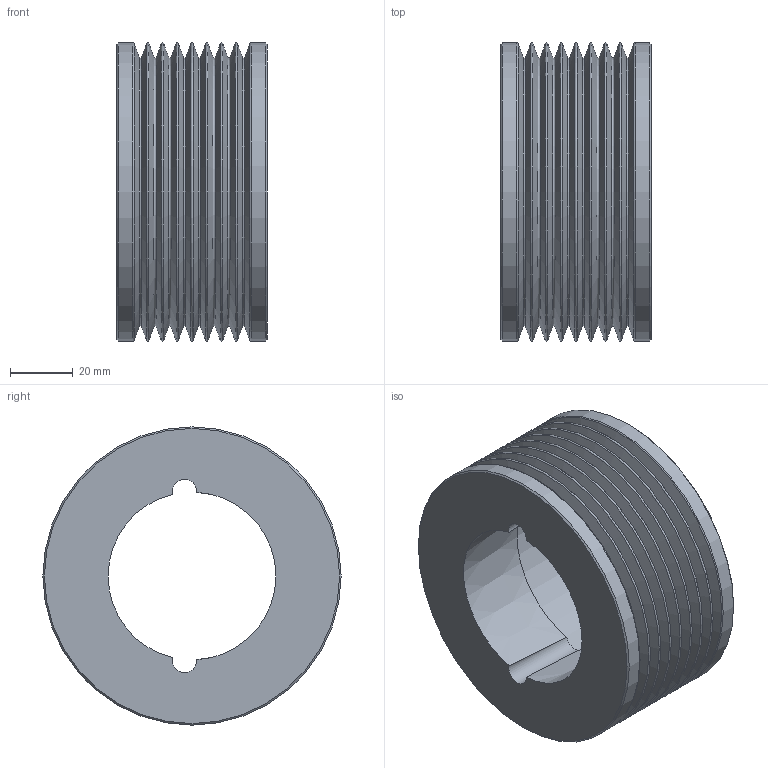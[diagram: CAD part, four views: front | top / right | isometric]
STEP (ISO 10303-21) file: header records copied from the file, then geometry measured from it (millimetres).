
FILE_DESCRIPTION(/* description */ (''),/* implementation_level */ '2;1');
FILE_NAME(/* name */ 'C:\Users\stagistacad\Desktop\48208095.stp',/* time_stamp */ '2018-06-14T09:09:09+02:00',/* author */ ('stagistacad'),/* organization */ (''),/* preprocessor_version */ 'ST-DEVELOPER v15.6',/* originating_system */ 'Autodesk Inventor 2015',/* authorisation */ '');
FILE_SCHEMA (('AUTOMOTIVE_DESIGN { 1 0 10303 214 3 1 1 }'));
Length unit declared in the file: millimetre
Products named in the file (1): 48208095
Bounding box: 48 x 95 x 95 mm (x, y, z)
Volume: 162648.3 mm3; surface area: 47352.3 mm2
Topology: 1 solids, 1 shells, 49 faces, 100 edges, 54 vertices
Faces by surface type: cone 22, torus 18, cylinder 6, plane 3
Full cylindrical faces by diameter (mm): 71 x1, 95 x2
Entity records: 1128 total; most frequent: CARTESIAN_POINT 215, DIRECTION 206, ORIENTED_EDGE 120, AXIS2_PLACEMENT_3D 103, EDGE_LOOP 92, EDGE_CURVE 60, VERTEX_POINT 54, CIRCLE 53
